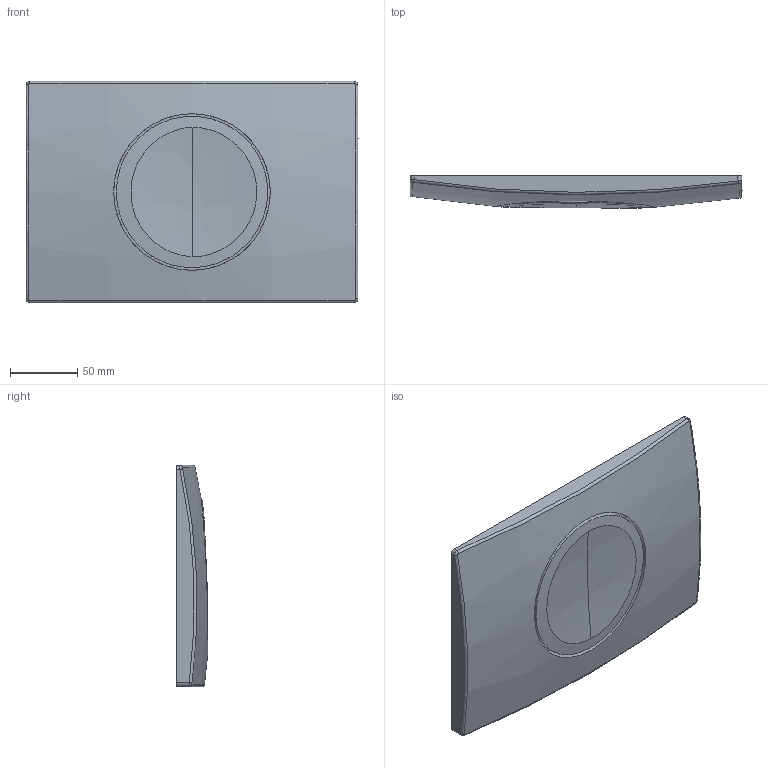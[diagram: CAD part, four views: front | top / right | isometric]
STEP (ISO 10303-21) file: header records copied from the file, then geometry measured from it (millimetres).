
FILE_DESCRIPTION(/* description */ (''),/* implementation_level */ '2;1');
FILE_NAME(/* name */ 'C:\Planerdaten\Export PLA\115.120.11.5\stp\115109.stp',/* time_stamp */ '2021-10-08T09:26:23+02:00',/* author */ ('JANAN'),/* organization */ (''),/* preprocessor_version */ 'ST-DEVELOPER v16.13',/* originating_system */ 'Autodesk Inventor 2018',/* authorisation */ '');
FILE_SCHEMA (('AUTOMOTIVE_DESIGN { 1 0 10303 214 3 1 1 }'));
Length unit declared in the file: millimetre
Products named in the file (1): tmp1F32.tmp
Bounding box: 246 x 23.68 x 164 mm (x, y, z)
Volume: 775706.4 mm3; surface area: 118074.5 mm2
Topology: 2 solids, 2 shells, 25 faces, 51 edges, 32 vertices
Faces by surface type: bspline 10, plane 7, cylinder 6, torus 2
Full cylindrical faces by diameter (mm): 112 x1, 116 x1
Entity records: 1485 total; most frequent: CARTESIAN_POINT 923, DIRECTION 106, ORIENTED_EDGE 94, EDGE_CURVE 47, AXIS2_PLACEMENT_3D 47, CIRCLE 31, VERTEX_POINT 30, EDGE_LOOP 29
